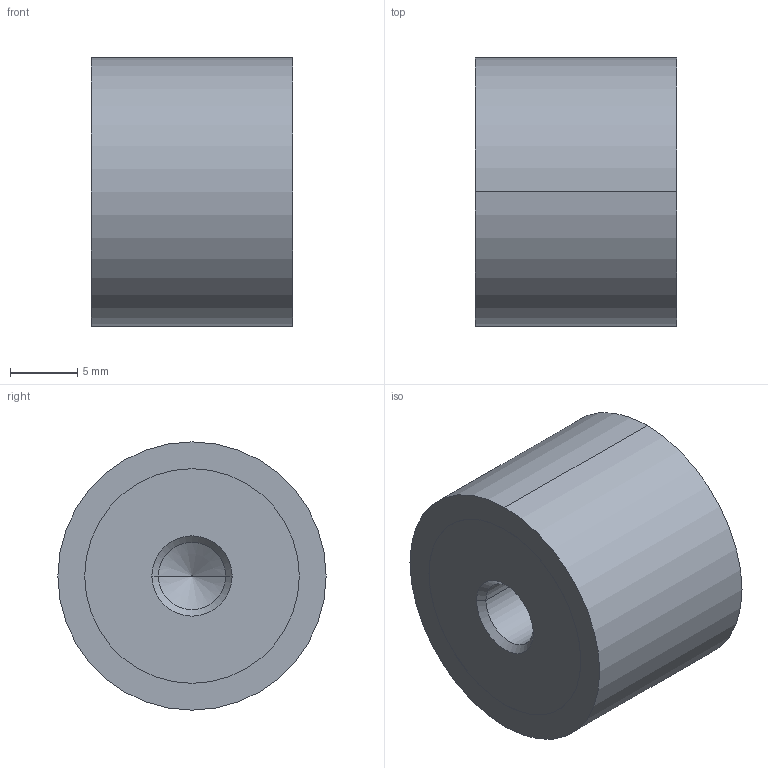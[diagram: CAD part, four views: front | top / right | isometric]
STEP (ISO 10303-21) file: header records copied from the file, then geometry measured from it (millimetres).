
FILE_DESCRIPTION (( 'STEP AP214' ), '1' );
FILE_NAME ('451-20-15-M6-EE-55.step', '2020-03-05T09:10:48', ( '' ), ( '' ), 'SwSTEP 2.0', 'SolidWorks 2019', '' );
FILE_SCHEMA (( 'AUTOMOTIVE_DESIGN' ));
Length unit declared in the file: millimetre
Products named in the file (1): 451-20-15-M6-EE-55
Bounding box: 15 x 20 x 20 mm (x, y, z)
Volume: 4449.5 mm3; surface area: 1758.1 mm2
Topology: 1 solids, 1 shells, 22 faces, 44 edges, 26 vertices
Faces by surface type: cylinder 10, cone 8, plane 4
Entity records: 700 total; most frequent: DIRECTION 116, CARTESIAN_POINT 93, ORIENTED_EDGE 88, AXIS2_PLACEMENT_3D 49, EDGE_CURVE 44, EDGE_LOOP 26, VERTEX_POINT 26, CIRCLE 26
